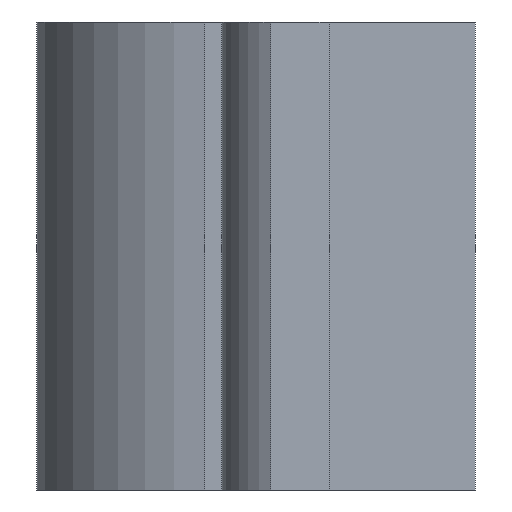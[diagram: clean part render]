
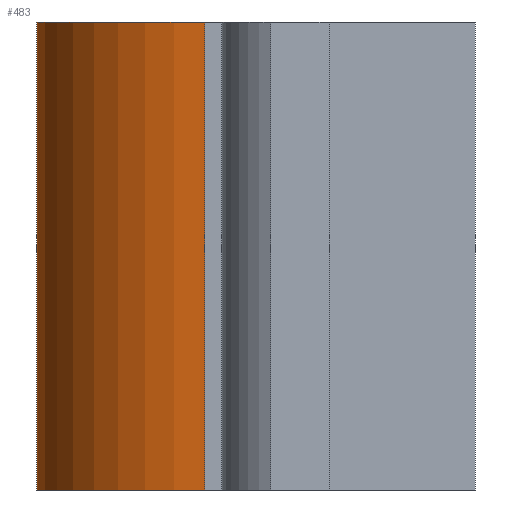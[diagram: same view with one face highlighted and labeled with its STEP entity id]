
A CAD part, left-side view. The second image highlights one B-rep face of the part: STEP entity #483.
In plain terms, the highlighted cylindrical face has radius 10.319 mm (diameter 20.638 mm), a partial arc.
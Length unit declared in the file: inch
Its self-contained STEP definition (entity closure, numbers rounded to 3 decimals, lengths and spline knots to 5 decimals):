
#18 = ORIENTED_EDGE ( 'NONE', *, *, #293, .F. ) ;
#40 = DIRECTION ( 'NONE',  ( 0., 0., 1. ) ) ;
#66 = CARTESIAN_POINT ( 'NONE',  ( -2.71875, 0.61988, 0. ) ) ;
#73 = VECTOR ( 'NONE', #252, 39.37008 ) ;
#77 = VERTEX_POINT ( 'NONE', #191 ) ;
#97 = EDGE_CURVE ( 'NONE', #152, #289, #484, .T. ) ;
#100 = CARTESIAN_POINT ( 'NONE',  ( -3.51875, 0.57812, -1. ) ) ;
#101 = CARTESIAN_POINT ( 'NONE',  ( -3.11521, 0.53125, -1. ) ) ;
#106 = ORIENTED_EDGE ( 'NONE', *, *, #448, .T. ) ;
#113 = AXIS2_PLACEMENT_3D ( 'NONE', #523, #40, #212 ) ;
#149 = ORIENTED_EDGE ( 'NONE', *, *, #290, .F. ) ;
#152 = VERTEX_POINT ( 'NONE', #333 ) ;
#153 = FACE_OUTER_BOUND ( 'NONE', #544, .T. ) ;
#191 = CARTESIAN_POINT ( 'NONE',  ( -2.71875, 0.61988, -1. ) ) ;
#210 = CIRCLE ( 'NONE', #330, 0.40625 ) ;
#212 = DIRECTION ( 'NONE',  ( -1., 0., 0. ) ) ;
#248 = DIRECTION ( 'NONE',  ( -1., 0., 0. ) ) ;
#252 = DIRECTION ( 'NONE',  ( 0., 0., 1. ) ) ;
#264 = DIRECTION ( 'NONE',  ( 0., 0., 1. ) ) ;
#289 = VERTEX_POINT ( 'NONE', #336 ) ;
#290 = EDGE_CURVE ( 'NONE', #77, #412, #332, .T. ) ;
#293 = EDGE_CURVE ( 'NONE', #412, #289, #534, .T. ) ;
#311 = DIRECTION ( 'NONE',  ( 0., 0., 1. ) ) ;
#330 = AXIS2_PLACEMENT_3D ( 'NONE', #101, #311, #248 ) ;
#332 = LINE ( 'NONE', #334, #73 ) ;
#333 = CARTESIAN_POINT ( 'NONE',  ( -3.51875, 0.57812, -1. ) ) ;
#334 = CARTESIAN_POINT ( 'NONE',  ( -2.71875, 0.61988, -1. ) ) ;
#336 = CARTESIAN_POINT ( 'NONE',  ( -3.51875, 0.57812, 0. ) ) ;
#371 = CARTESIAN_POINT ( 'NONE',  ( -3.11521, 0.53125, -1. ) ) ;
#412 = VERTEX_POINT ( 'NONE', #66 ) ;
#426 = DIRECTION ( 'NONE',  ( 0., 0., 1. ) ) ;
#448 = EDGE_CURVE ( 'NONE', #77, #152, #210, .T. ) ;
#483 = ADVANCED_FACE ( 'NONE', ( #153 ), #552, .T. ) ;
#484 = LINE ( 'NONE', #100, #563 ) ;
#523 = CARTESIAN_POINT ( 'NONE',  ( -3.11521, 0.53125, 0. ) ) ;
#533 = ORIENTED_EDGE ( 'NONE', *, *, #97, .T. ) ;
#534 = CIRCLE ( 'NONE', #113, 0.40625 ) ;
#544 = EDGE_LOOP ( 'NONE', ( #18, #149, #106, #533 ) ) ;
#546 = AXIS2_PLACEMENT_3D ( 'NONE', #371, #426, #561 ) ;
#552 = CYLINDRICAL_SURFACE ( 'NONE', #546, 0.40625 ) ;
#561 = DIRECTION ( 'NONE',  ( 1., 0., 0. ) ) ;
#563 = VECTOR ( 'NONE', #264, 39.37008 ) ;
